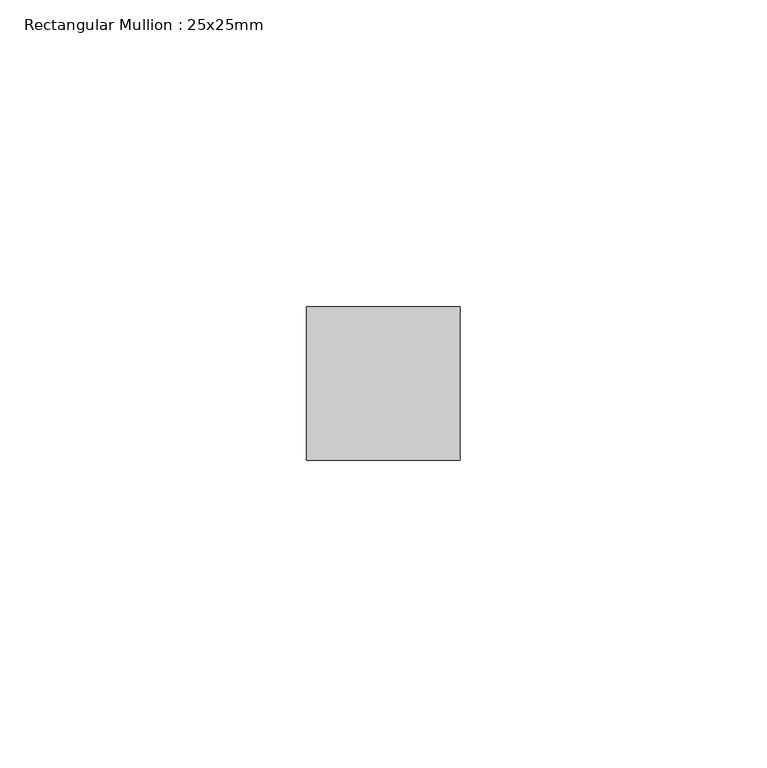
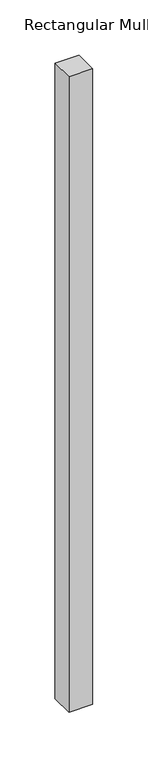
"""IFC4 building model written with IfcOpenShell, lengths in millimetres: member geometry, Rectangular Mullion : 25x25mm."""

from ifc_helpers import new_model, si_unit, frame, origin, place, context, project, spatial, polyline, outline, extrude, source, transform, mapped, element, save


def rectangular_mullion_25x25mm_09969e68(model_context):
    return source(origin(), model_context, "Body", "SweptSolid", [
        extrude(outline(polyline([(12.5, 0.5), (12.5, -24.5), (-12.5, -24.5), (-12.5, 0.5), (12.5, 0.5)])), frame((0.0, 0.0, -702.4999998), z_axis=(0.0, 0.0, 1.0), x_axis=(1.0, 0.0, 0.0)), (0.0, 0.0, 1.0), 702.4999998),
    ])


if __name__ == "__main__":
    model = new_model("IFC4")
    model_context = context("Model", 3, world=origin())
    ifc_project = project(units=[si_unit("LENGTHUNIT", "METRE", prefix="MILLI")], contexts=[model_context])
    site = spatial("IfcSite", under=ifc_project)
    building = spatial("IfcBuilding", under=site)
    placement = place(None, origin())
    rectangular_mullion_25x25mm_shape = rectangular_mullion_25x25mm_09969e68(model_context)
    element("IfcMember", 1, ObjectType="Rectangular Mullion : 25x25mm", at=placement, inside=building, context=model_context, shape_type="MappedRepresentation", body=[
        mapped(rectangular_mullion_25x25mm_shape, transform((0.0, 0.0, 0.0), x_axis=(1.0, 0.0, 0.0), y_axis=(0.0, 1.0, 0.0), z_axis=(0.0, 0.0, 1.0))),
    ])
    save(model, "model.ifc")
